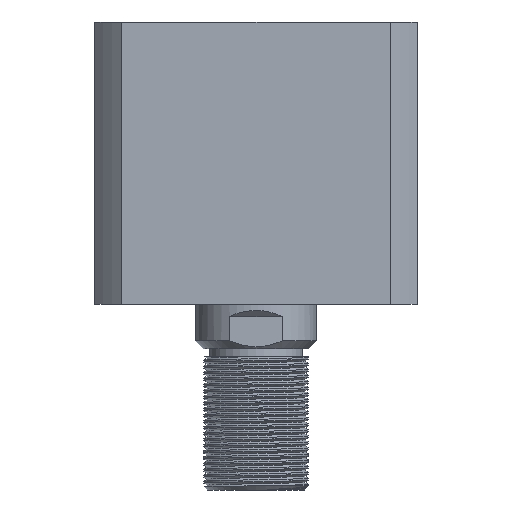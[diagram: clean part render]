
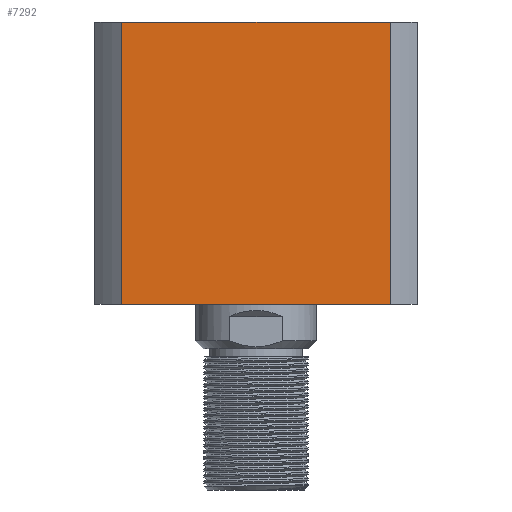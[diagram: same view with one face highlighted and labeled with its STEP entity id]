
A CAD part, left-side view. The second image highlights one B-rep face of the part: STEP entity #7292.
In plain terms, the highlighted planar face has unit normal (-1, 0, 0).
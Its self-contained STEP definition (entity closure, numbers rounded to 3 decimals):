
#712 = LINE ( 'NONE', #4472, #7478 ) ;
#755 = EDGE_CURVE ( 'NONE', #11524, #12391, #712, .T. ) ;
#1025 = FACE_OUTER_BOUND ( 'NONE', #8527, .T. ) ;
#1984 = ORIENTED_EDGE ( 'NONE', *, *, #3896, .F. ) ;
#2653 = VERTEX_POINT ( 'NONE', #13476 ) ;
#2951 = CARTESIAN_POINT ( 'NONE',  ( -40., 33.226, -35. ) ) ;
#3602 = LINE ( 'NONE', #13769, #17445 ) ;
#3871 = LINE ( 'NONE', #5311, #7139 ) ;
#3896 = EDGE_CURVE ( 'NONE', #11524, #8120, #12549, .T. ) ;
#4287 = DIRECTION ( 'NONE',  ( 0., 0., -1. ) ) ;
#4472 = CARTESIAN_POINT ( 'NONE',  ( -40., 33.226, 35. ) ) ;
#4784 = PLANE ( 'NONE',  #6377 ) ;
#5311 = CARTESIAN_POINT ( 'NONE',  ( -40., -33.226, 35. ) ) ;
#6377 = AXIS2_PLACEMENT_3D ( 'NONE', #17057, #14453, #12981 ) ;
#7139 = VECTOR ( 'NONE', #16722, 1000. ) ;
#7292 = ADVANCED_FACE ( 'NONE', ( #1025 ), #4784, .F. ) ;
#7334 = CARTESIAN_POINT ( 'NONE',  ( -40., -33.226, 35. ) ) ;
#7478 = VECTOR ( 'NONE', #4287, 1000. ) ;
#8120 = VERTEX_POINT ( 'NONE', #7334 ) ;
#8271 = DIRECTION ( 'NONE',  ( 0., -1., 0. ) ) ;
#8527 = EDGE_LOOP ( 'NONE', ( #16288, #14189, #1984, #14160 ) ) ;
#9757 = VECTOR ( 'NONE', #17682, 1000. ) ;
#10470 = CARTESIAN_POINT ( 'NONE',  ( -40., 33.226, 35. ) ) ;
#10783 = CARTESIAN_POINT ( 'NONE',  ( -40., 33.226, 35. ) ) ;
#11524 = VERTEX_POINT ( 'NONE', #10470 ) ;
#12391 = VERTEX_POINT ( 'NONE', #2951 ) ;
#12549 = LINE ( 'NONE', #10783, #9757 ) ;
#12981 = DIRECTION ( 'NONE',  ( 0., 1., 0. ) ) ;
#13023 = EDGE_CURVE ( 'NONE', #12391, #2653, #3602, .T. ) ;
#13476 = CARTESIAN_POINT ( 'NONE',  ( -40., -33.226, -35. ) ) ;
#13769 = CARTESIAN_POINT ( 'NONE',  ( -40., 33.226, -35. ) ) ;
#14160 = ORIENTED_EDGE ( 'NONE', *, *, #755, .T. ) ;
#14189 = ORIENTED_EDGE ( 'NONE', *, *, #17701, .F. ) ;
#14453 = DIRECTION ( 'NONE',  ( 1., 0., 0. ) ) ;
#16288 = ORIENTED_EDGE ( 'NONE', *, *, #13023, .T. ) ;
#16722 = DIRECTION ( 'NONE',  ( 0., 0., -1. ) ) ;
#17057 = CARTESIAN_POINT ( 'NONE',  ( -40., 33.226, 35. ) ) ;
#17445 = VECTOR ( 'NONE', #8271, 1000. ) ;
#17682 = DIRECTION ( 'NONE',  ( 0., -1., 0. ) ) ;
#17701 = EDGE_CURVE ( 'NONE', #8120, #2653, #3871, .T. ) ;
